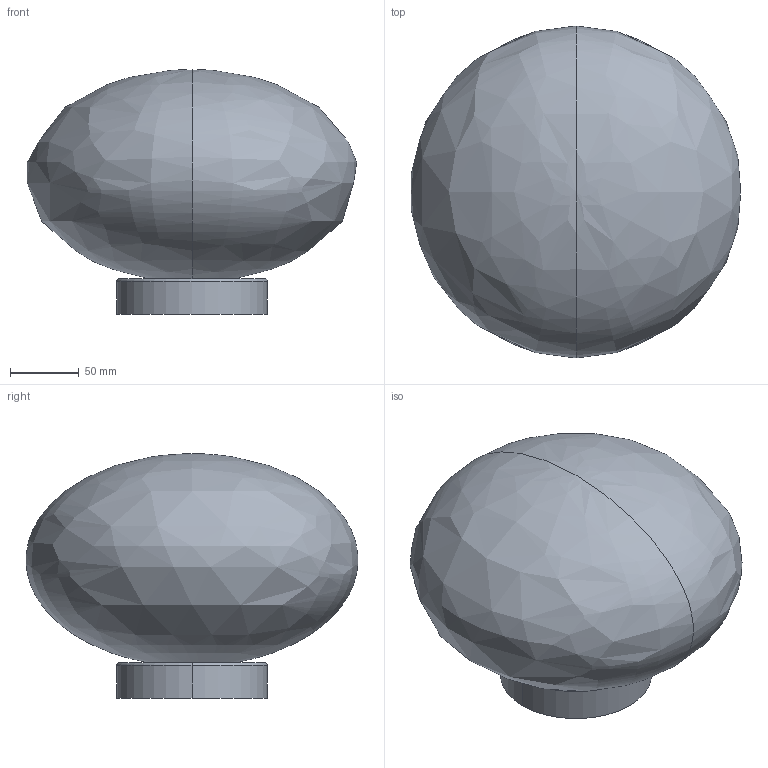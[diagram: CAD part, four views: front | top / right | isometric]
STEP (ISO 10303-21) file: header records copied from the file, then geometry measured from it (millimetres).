
FILE_DESCRIPTION (( 'STEP AP214' ), '1' );
FILE_NAME ('3D_MAGA_WALL.STEP', '2018-03-12T08:28:00', ( 'Utente' ), ( '' ), 'SwSTEP 2.0', 'SolidWorks 2016', '' );
FILE_SCHEMA (( 'AUTOMOTIVE_DESIGN' ));
Length unit declared in the file: millimetre
Products named in the file (4): 3D_MAGA_WALL; 061MGA000000_diffusore vetro magaMARTI-2^3D_MAGA_WALL; LAMP E27 HaloMARTI-1^3D_MAGA_WALL; 052COM001400_Rosone plas. forato cromatoMARTI-1^3D_MAGA_WALL
Assembly tree (3 placements, depth 2):
  3D_MAGA_WALL
    052COM001400_Rosone plas. forato cromatoMARTI-1^3D_MAGA_WALL
    LAMP E27 HaloMARTI-1^3D_MAGA_WALL
    061MGA000000_diffusore vetro magaMARTI-2^3D_MAGA_WALL
Bounding box: 239.99 x 241.83 x 178.41 mm (x, y, z)
Volume: 923807.2 mm3; surface area: 310985.4 mm2
Topology: 3 solids, 3 shells, 37 faces, 90 edges, 54 vertices
Faces by surface type: cylinder 13, bspline 10, plane 6, cone 6, torus 2
Entity records: 4306 total; most frequent: CARTESIAN_POINT 3370, ORIENTED_EDGE 168, DIRECTION 153, EDGE_CURVE 84, AXIS2_PLACEMENT_3D 67, VERTEX_POINT 54, EDGE_LOOP 38, ADVANCED_FACE 37
